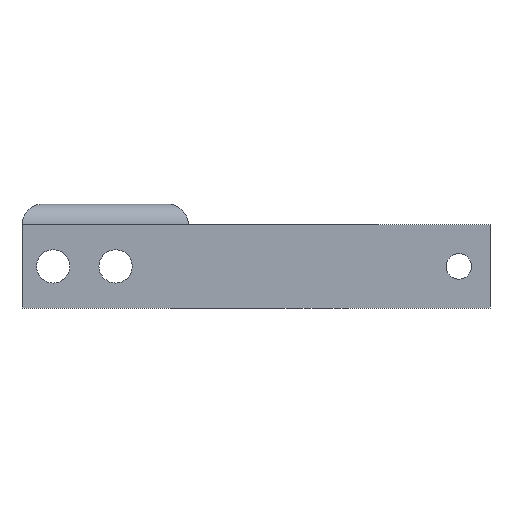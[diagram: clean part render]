
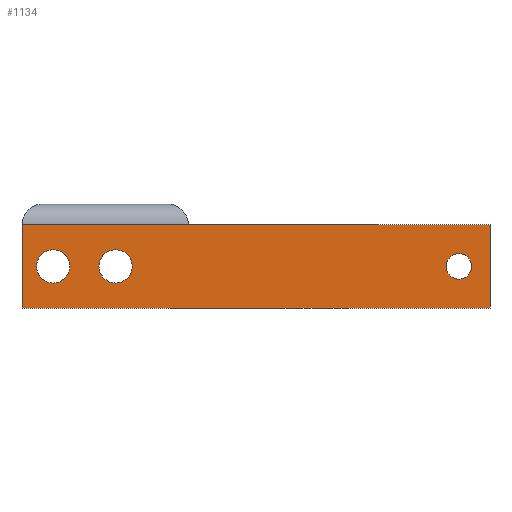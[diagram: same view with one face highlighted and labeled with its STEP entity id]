
A CAD part, front view. The second image highlights one B-rep face of the part: STEP entity #1134.
In plain terms, the highlighted planar face has unit normal (0, -1, 0).
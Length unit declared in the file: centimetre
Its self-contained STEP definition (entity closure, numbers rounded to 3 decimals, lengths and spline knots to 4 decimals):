
#647=PLANE('',#1181);
#674=VECTOR('',#1286,1.);
#676=VECTOR('',#1289,1.);
#677=VECTOR('',#1290,1.);
#678=VECTOR('',#1291,1.);
#710=LINE('',#1462,#674);
#712=LINE('',#1466,#676);
#713=LINE('',#1468,#677);
#714=LINE('',#1470,#678);
#741=VERTEX_POINT('',#1437);
#743=VERTEX_POINT('',#1442);
#745=VERTEX_POINT('',#1447);
#751=VERTEX_POINT('',#1461);
#752=VERTEX_POINT('',#1463);
#753=VERTEX_POINT('',#1467);
#754=VERTEX_POINT('',#1469);
#788=CIRCLE('',#1171,0.123);
#790=CIRCLE('',#1174,0.16);
#792=CIRCLE('',#1177,0.16);
#818=EDGE_CURVE('',#741,#741,#788,.T.);
#820=EDGE_CURVE('',#743,#743,#790,.T.);
#822=EDGE_CURVE('',#745,#745,#792,.T.);
#829=EDGE_CURVE('',#752,#751,#710,.T.);
#831=EDGE_CURVE('',#751,#753,#712,.T.);
#832=EDGE_CURVE('',#754,#753,#713,.T.);
#833=EDGE_CURVE('',#754,#752,#714,.T.);
#912=ORIENTED_EDGE('',*,*,#818,.T.);
#913=ORIENTED_EDGE('',*,*,#820,.T.);
#914=ORIENTED_EDGE('',*,*,#822,.T.);
#915=ORIENTED_EDGE('',*,*,#831,.T.);
#916=ORIENTED_EDGE('',*,*,#832,.F.);
#917=ORIENTED_EDGE('',*,*,#833,.T.);
#918=ORIENTED_EDGE('',*,*,#829,.T.);
#1029=EDGE_LOOP('',(#912));
#1030=EDGE_LOOP('',(#913));
#1031=EDGE_LOOP('',(#914));
#1032=EDGE_LOOP('',(#915,#916,#917,#918));
#1085=FACE_BOUND('',#1029,.T.);
#1086=FACE_BOUND('',#1030,.T.);
#1087=FACE_BOUND('',#1031,.T.);
#1088=FACE_BOUND('',#1032,.T.);
#1134=ADVANCED_FACE('',(#1085,#1086,#1087,#1088),#647,.T.);
#1171=AXIS2_PLACEMENT_3D('',#1436,#1263,#1264);
#1174=AXIS2_PLACEMENT_3D('',#1441,#1269,#1270);
#1177=AXIS2_PLACEMENT_3D('',#1446,#1275,#1276);
#1181=AXIS2_PLACEMENT_3D('',#1465,#1288,$);
#1263=DIRECTION('',(0.,1.,0.));
#1264=DIRECTION('',(0.123,0.,0.));
#1269=DIRECTION('',(0.,1.,0.));
#1270=DIRECTION('',(0.16,0.,0.));
#1275=DIRECTION('',(0.,1.,0.));
#1276=DIRECTION('',(0.16,0.,0.));
#1286=DIRECTION('',(1.,0.,0.));
#1288=DIRECTION('',(0.,-1.,0.));
#1289=DIRECTION('',(0.,0.,1.));
#1290=DIRECTION('',(1.,0.,0.));
#1291=DIRECTION('',(0.,0.,-1.));
#1436=CARTESIAN_POINT('',(4.2,-0.4,0.));
#1437=CARTESIAN_POINT('',(4.0771,-0.4,0.));
#1441=CARTESIAN_POINT('',(0.9,-0.4,0.));
#1442=CARTESIAN_POINT('',(0.74,-0.4,0.));
#1446=CARTESIAN_POINT('',(0.3,-0.4,0.));
#1447=CARTESIAN_POINT('',(0.14,-0.4,0.));
#1461=CARTESIAN_POINT('',(4.5,-0.4,-0.4));
#1462=CARTESIAN_POINT('',(0.,-0.4,-0.4));
#1463=CARTESIAN_POINT('',(0.,-0.4,-0.4));
#1465=CARTESIAN_POINT('',(0.,-0.4,0.));
#1466=CARTESIAN_POINT('',(4.5,-0.4,0.4));
#1467=CARTESIAN_POINT('',(4.5,-0.4,0.4));
#1468=CARTESIAN_POINT('',(0.,-0.4,0.4));
#1469=CARTESIAN_POINT('',(0.,-0.4,0.4));
#1470=CARTESIAN_POINT('',(0.,-0.4,0.4));
